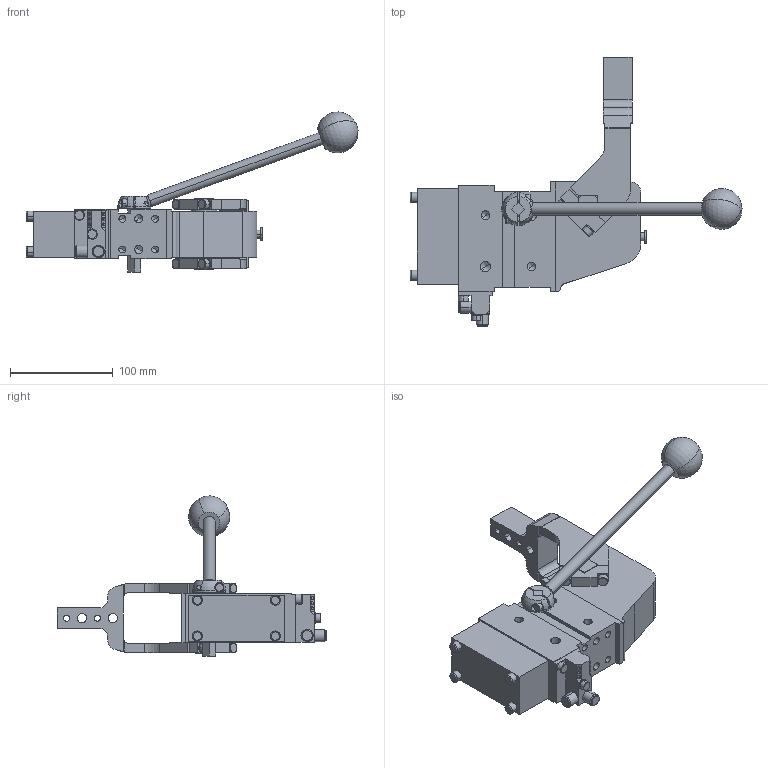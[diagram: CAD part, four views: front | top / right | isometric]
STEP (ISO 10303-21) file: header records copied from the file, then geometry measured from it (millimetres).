
FILE_DESCRIPTION(('CATIA V5 STEP Exchange'),'2;1');
FILE_NAME('G:\Konstruktion\Modelle\UPLOAD\MK_50_1_A10_T12_TUENKERS.stp','2017-07-20T13:34:56+00:00',('none'),('none'),'CATIA Version 5 Release 19 SP 9 (IN-10)','CATIA V5 STEP AP214','none');
FILE_SCHEMA(('AUTOMOTIVE_DESIGN { 1 0 10303 214 1 1 1 1 }'));
Length unit declared in the file: millimetre
Products named in the file (1): MK_50_1_A10_T12_TUENKERS
Bounding box: 323.64 x 262.5 x 156.11 mm (x, y, z)
Volume: 1140727.8 mm3; surface area: 138428 mm2
Topology: 6 solids, 11 shells, 477 faces, 1260 edges, 788 vertices
Faces by surface type: plane 193, cylinder 166, cone 70, sphere 24, torus 24
Entity records: 14643 total; most frequent: CARTESIAN_POINT 2879, ORIENTED_EDGE 2388, DIRECTION 1691, EDGE_CURVE 1194, VERTEX_POINT 788, AXIS2_PLACEMENT_3D 773, VECTOR 634, LINE 634
